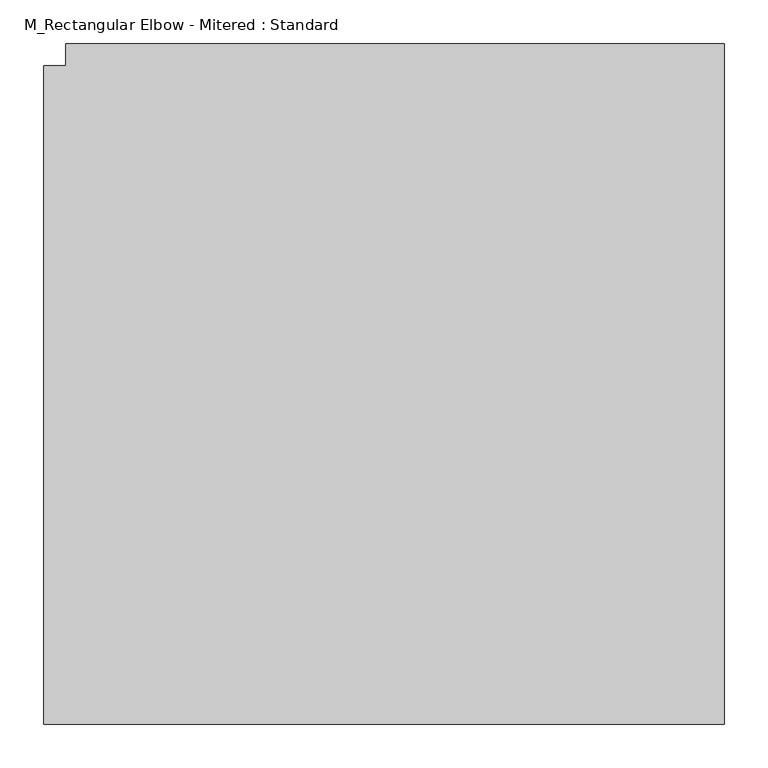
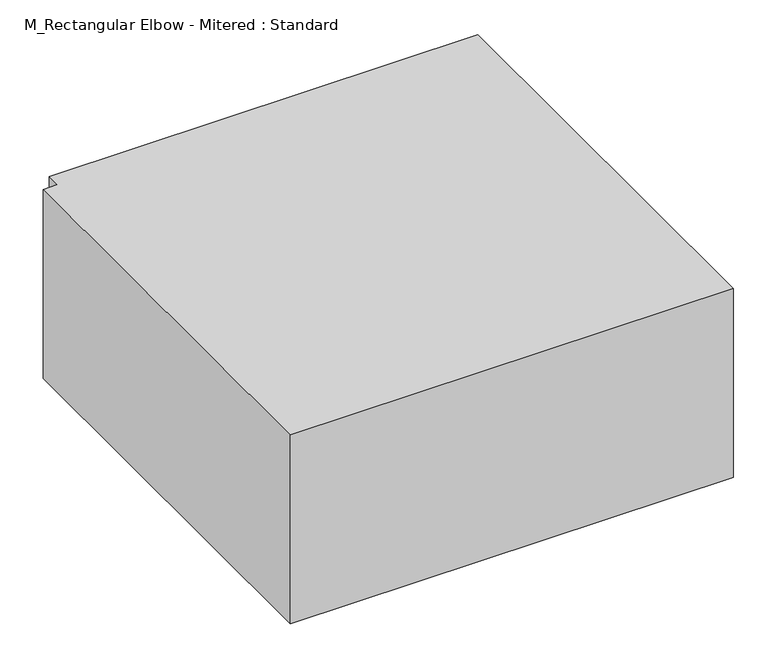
"""IFC4 building model written with IfcOpenShell, lengths in millimetres: duct fitting geometry, M_Rectangular Elbow - Mitered : Standard."""

from ifc_helpers import new_model, si_unit, frame, origin, place, context, project, spatial, polyline, outline, extrude, source, transform, mapped, element, save


def m_rectangular_elbow_mitered_standard_b1e48f8f(model_context):
    return source(origin(), model_context, "Body", "SweptSolid", [
        extrude(outline(polyline([(-400.0, -375.0), (-400.0, 375.0), (-375.0, 375.0), (-375.0, 400.0), (375.0, 400.0), (375.0, -375.0), (-400.0, -375.0)])), frame((0.0, 0.0, -175.0), z_axis=(0.0, 0.0, 1.0), x_axis=(1.0, 0.0, 0.0)), (0.0, 0.0, 1.0), 350.0),
        extrude(outline(polyline([(-400.0, -375.0), (-400.0, 375.0), (-375.0, 375.0), (-375.0, 400.0), (375.0, 400.0), (375.0, -375.0), (-400.0, -375.0)])), frame((0.0, 0.0, -175.0), z_axis=(0.0, 0.0, 1.0), x_axis=(1.0, 0.0, 0.0)), (0.0, 0.0, 1.0), 350.0),
        extrude(outline(polyline([(-400.0, -375.0), (-400.0, 375.0), (-375.0, 375.0), (-375.0, 400.0), (375.0, 400.0), (375.0, -375.0), (-400.0, -375.0)])), frame((0.0, 0.0, -175.0), z_axis=(0.0, 0.0, 1.0), x_axis=(1.0, 0.0, 0.0)), (0.0, 0.0, 1.0), 350.0),
    ])


if __name__ == "__main__":
    model = new_model("IFC4")
    model_context = context("Model", 3, world=origin())
    ifc_project = project(units=[si_unit("LENGTHUNIT", "METRE", prefix="MILLI")], contexts=[model_context])
    site = spatial("IfcSite", under=ifc_project)
    building = spatial("IfcBuilding", under=site)
    placement = place(None, origin())
    m_rectangular_elbow_mitered_standard_shape = m_rectangular_elbow_mitered_standard_b1e48f8f(model_context)
    element("IfcDuctFitting", 1, ObjectType="M_Rectangular Elbow - Mitered : Standard", at=placement, inside=building, context=model_context, shape_type="MappedRepresentation", body=[
        mapped(m_rectangular_elbow_mitered_standard_shape, transform((0.0, 0.0, 0.0), x_axis=(1.0, 0.0, 0.0), y_axis=(0.0, 1.0, 0.0), z_axis=(0.0, 0.0, 1.0))),
    ])
    save(model, "model.ifc")
